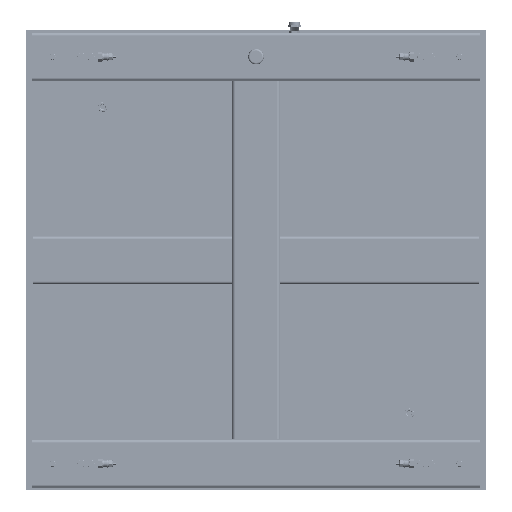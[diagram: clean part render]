
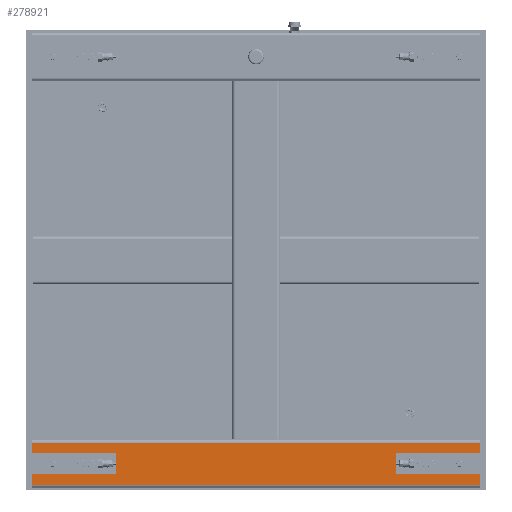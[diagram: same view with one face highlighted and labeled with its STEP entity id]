
A CAD part, front view. The second image highlights one B-rep face of the part: STEP entity #278921.
In plain terms, the highlighted planar face has unit normal (0, -1, 0).
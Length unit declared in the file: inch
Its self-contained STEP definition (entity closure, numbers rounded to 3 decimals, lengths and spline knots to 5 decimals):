
#2184 = VERTEX_POINT ( 'NONE', #316407 ) ;
#2935 = CARTESIAN_POINT ( 'NONE',  ( -2.5, 0., 38. ) ) ;
#7918 = LINE ( 'NONE', #372350, #693157 ) ;
#34599 = ORIENTED_EDGE ( 'NONE', *, *, #412557, .T. ) ;
#38395 = CARTESIAN_POINT ( 'NONE',  ( -2.5, 0., 8.75 ) ) ;
#60307 = VERTEX_POINT ( 'NONE', #232915 ) ;
#64113 = AXIS2_PLACEMENT_3D ( 'NONE', #140440, #489761, #730179 ) ;
#67019 = VECTOR ( 'NONE', #473139, 39.37008 ) ;
#67456 = LINE ( 'NONE', #615526, #280472 ) ;
#72555 = DIRECTION ( 'NONE',  ( 1., 0., 0. ) ) ;
#72582 = FACE_OUTER_BOUND ( 'NONE', #223973, .T. ) ;
#75388 = CARTESIAN_POINT ( 'NONE',  ( -2.5, 0., 0. ) ) ;
#85371 = CARTESIAN_POINT ( 'NONE',  ( 2.1875, 0., 46.75 ) ) ;
#97936 = DIRECTION ( 'NONE',  ( 1., 0., 0. ) ) ;
#122534 = CARTESIAN_POINT ( 'NONE',  ( -1.125, 0., 46.75 ) ) ;
#124069 = LINE ( 'NONE', #38395, #216760 ) ;
#136780 = LINE ( 'NONE', #75388, #738661 ) ;
#140440 = CARTESIAN_POINT ( 'NONE',  ( -2.5, 0., 46.75 ) ) ;
#152946 = LINE ( 'NONE', #309788, #542127 ) ;
#158468 = EDGE_CURVE ( 'NONE', #589761, #418360, #446824, .T. ) ;
#160638 = EDGE_CURVE ( 'NONE', #2184, #554158, #457554, .T. ) ;
#163695 = ORIENTED_EDGE ( 'NONE', *, *, #508935, .T. ) ;
#183298 = CARTESIAN_POINT ( 'NONE',  ( -2.5, 0., 0. ) ) ;
#194661 = EDGE_CURVE ( 'NONE', #641804, #583475, #124069, .T. ) ;
#216413 = ORIENTED_EDGE ( 'NONE', *, *, #520088, .T. ) ;
#216760 = VECTOR ( 'NONE', #97936, 39.37008 ) ;
#219637 = ORIENTED_EDGE ( 'NONE', *, *, #685635, .T. ) ;
#223973 = EDGE_LOOP ( 'NONE', ( #513331, #246040, #764058, #216413, #219637, #225884, #533073, #313367, #355614, #163695, #427950, #34599 ) ) ;
#225884 = ORIENTED_EDGE ( 'NONE', *, *, #447124, .F. ) ;
#232915 = CARTESIAN_POINT ( 'NONE',  ( -2.1875, 0., 46.75 ) ) ;
#244557 = LINE ( 'NONE', #122534, #743931 ) ;
#246040 = ORIENTED_EDGE ( 'NONE', *, *, #660661, .T. ) ;
#247376 = VERTEX_POINT ( 'NONE', #372892 ) ;
#278921 = ADVANCED_FACE ( 'NONE', ( #72582 ), #316414, .F. ) ;
#280472 = VECTOR ( 'NONE', #501688, 39.37008 ) ;
#283082 = CARTESIAN_POINT ( 'NONE',  ( 1.125, 0., 38. ) ) ;
#309788 = CARTESIAN_POINT ( 'NONE',  ( 1.125, 0., 46.75 ) ) ;
#310503 = EDGE_CURVE ( 'NONE', #60307, #247376, #581525, .T. ) ;
#313367 = ORIENTED_EDGE ( 'NONE', *, *, #349299, .T. ) ;
#316407 = CARTESIAN_POINT ( 'NONE',  ( 1.125, 0., 46.75 ) ) ;
#316414 = PLANE ( 'NONE',  #64113 ) ;
#349299 = EDGE_CURVE ( 'NONE', #2184, #589761, #676547, .T. ) ;
#355614 = ORIENTED_EDGE ( 'NONE', *, *, #158468, .T. ) ;
#369323 = DIRECTION ( 'NONE',  ( 0., 0., -1. ) ) ;
#372350 = CARTESIAN_POINT ( 'NONE',  ( -2.1875, 0., 46.75 ) ) ;
#372892 = CARTESIAN_POINT ( 'NONE',  ( -1.125, 0., 46.75 ) ) ;
#378033 = VECTOR ( 'NONE', #72555, 39.37008 ) ;
#392787 = VERTEX_POINT ( 'NONE', #445196 ) ;
#404630 = CARTESIAN_POINT ( 'NONE',  ( 1.125, 0., 8.75 ) ) ;
#412557 = EDGE_CURVE ( 'NONE', #60307, #733462, #7918, .T. ) ;
#416851 = DIRECTION ( 'NONE',  ( -1., 0., 0. ) ) ;
#418360 = VERTEX_POINT ( 'NONE', #503947 ) ;
#427950 = ORIENTED_EDGE ( 'NONE', *, *, #310503, .F. ) ;
#435266 = LINE ( 'NONE', #574086, #537015 ) ;
#445196 = CARTESIAN_POINT ( 'NONE',  ( 1.125, 0., 0. ) ) ;
#446824 = LINE ( 'NONE', #2935, #650170 ) ;
#447124 = EDGE_CURVE ( 'NONE', #554158, #707063, #67456, .T. ) ;
#457554 = LINE ( 'NONE', #738606, #652146 ) ;
#470244 = CARTESIAN_POINT ( 'NONE',  ( 1.125, 0., 46.75 ) ) ;
#473139 = DIRECTION ( 'NONE',  ( 1., 0., 0. ) ) ;
#489761 = DIRECTION ( 'NONE',  ( 0., 1., 0. ) ) ;
#494610 = DIRECTION ( 'NONE',  ( 1., 0., 0. ) ) ;
#495707 = DIRECTION ( 'NONE',  ( 1., 0., 0. ) ) ;
#501688 = DIRECTION ( 'NONE',  ( 0., 0., -1. ) ) ;
#503947 = CARTESIAN_POINT ( 'NONE',  ( -1.125, 0., 38. ) ) ;
#508935 = EDGE_CURVE ( 'NONE', #418360, #247376, #244557, .T. ) ;
#513331 = ORIENTED_EDGE ( 'NONE', *, *, #535323, .T. ) ;
#520088 = EDGE_CURVE ( 'NONE', #583475, #392787, #152946, .T. ) ;
#524759 = DIRECTION ( 'NONE',  ( 0., 0., -1. ) ) ;
#533073 = ORIENTED_EDGE ( 'NONE', *, *, #160638, .F. ) ;
#535323 = EDGE_CURVE ( 'NONE', #733462, #563125, #622384, .T. ) ;
#537015 = VECTOR ( 'NONE', #566438, 39.37008 ) ;
#542127 = VECTOR ( 'NONE', #369323, 39.37008 ) ;
#554158 = VERTEX_POINT ( 'NONE', #85371 ) ;
#563125 = VERTEX_POINT ( 'NONE', #667663 ) ;
#566438 = DIRECTION ( 'NONE',  ( 0., 0., 1. ) ) ;
#574086 = CARTESIAN_POINT ( 'NONE',  ( -1.125, 0., 46.75 ) ) ;
#576762 = CARTESIAN_POINT ( 'NONE',  ( -1.125, 0., 8.75 ) ) ;
#581525 = LINE ( 'NONE', #729620, #378033 ) ;
#583475 = VERTEX_POINT ( 'NONE', #404630 ) ;
#589761 = VERTEX_POINT ( 'NONE', #283082 ) ;
#603664 = DIRECTION ( 'NONE',  ( 0., 0., 1. ) ) ;
#615526 = CARTESIAN_POINT ( 'NONE',  ( 2.1875, 0., 46.75 ) ) ;
#622384 = LINE ( 'NONE', #183298, #67019 ) ;
#630468 = CARTESIAN_POINT ( 'NONE',  ( -2.1875, 0., 0. ) ) ;
#641804 = VERTEX_POINT ( 'NONE', #576762 ) ;
#650170 = VECTOR ( 'NONE', #416851, 39.37008 ) ;
#652146 = VECTOR ( 'NONE', #495707, 39.37008 ) ;
#660661 = EDGE_CURVE ( 'NONE', #563125, #641804, #435266, .T. ) ;
#667663 = CARTESIAN_POINT ( 'NONE',  ( -1.125, 0., 0. ) ) ;
#676547 = LINE ( 'NONE', #470244, #704718 ) ;
#685635 = EDGE_CURVE ( 'NONE', #392787, #707063, #136780, .T. ) ;
#693157 = VECTOR ( 'NONE', #716451, 39.37008 ) ;
#704718 = VECTOR ( 'NONE', #524759, 39.37008 ) ;
#707063 = VERTEX_POINT ( 'NONE', #747229 ) ;
#716451 = DIRECTION ( 'NONE',  ( 0., 0., -1. ) ) ;
#729620 = CARTESIAN_POINT ( 'NONE',  ( -2.5, 0., 46.75 ) ) ;
#730179 = DIRECTION ( 'NONE',  ( 0., 0., 1. ) ) ;
#733462 = VERTEX_POINT ( 'NONE', #630468 ) ;
#738606 = CARTESIAN_POINT ( 'NONE',  ( -2.5, 0., 46.75 ) ) ;
#738661 = VECTOR ( 'NONE', #494610, 39.37008 ) ;
#743931 = VECTOR ( 'NONE', #603664, 39.37008 ) ;
#747229 = CARTESIAN_POINT ( 'NONE',  ( 2.1875, 0., 0. ) ) ;
#764058 = ORIENTED_EDGE ( 'NONE', *, *, #194661, .T. ) ;
